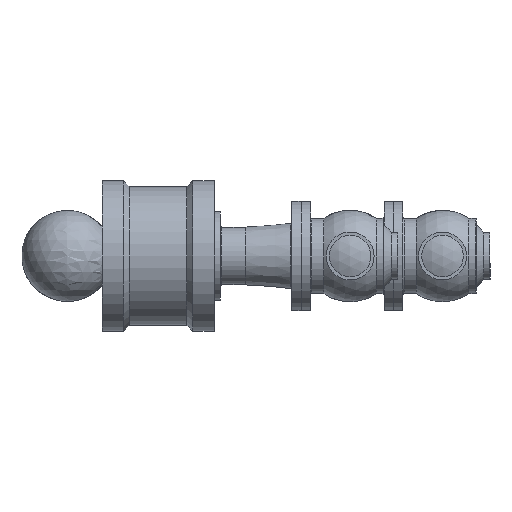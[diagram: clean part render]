
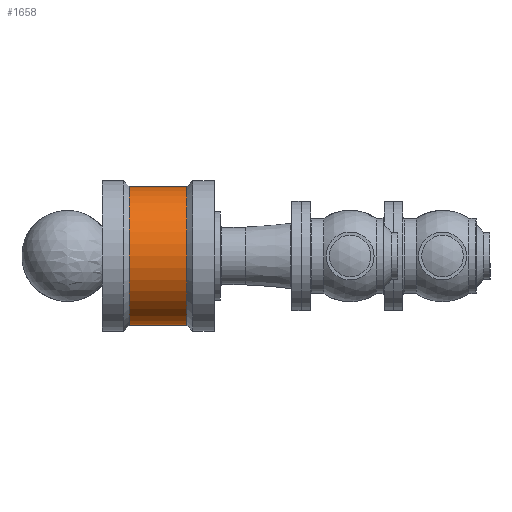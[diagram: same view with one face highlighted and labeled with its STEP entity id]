
A CAD part, left-side view. The second image highlights one B-rep face of the part: STEP entity #1658.
In plain terms, the highlighted cylindrical face has radius 110.5 mm (diameter 221 mm), a full revolution.
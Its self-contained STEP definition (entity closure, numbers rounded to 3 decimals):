
#251=FACE_OUTER_BOUND('',#350,.T.);
#350=EDGE_LOOP('',(#1212,#1213,#1214,#1215,#1216,#1217));
#462=LINE('',#2999,#505);
#505=VECTOR('',#2332,110.5);
#570=CIRCLE('',#1942,110.5);
#571=CIRCLE('',#1943,110.5);
#572=CIRCLE('',#1945,110.5);
#573=CIRCLE('',#1946,110.5);
#758=VERTEX_POINT('',#2989);
#759=VERTEX_POINT('',#2990);
#760=VERTEX_POINT('',#2995);
#761=VERTEX_POINT('',#2996);
#942=EDGE_CURVE('',#758,#759,#570,.T.);
#943=EDGE_CURVE('',#759,#758,#571,.T.);
#945=EDGE_CURVE('',#760,#761,#572,.T.);
#946=EDGE_CURVE('',#761,#760,#573,.T.);
#947=EDGE_CURVE('',#761,#759,#462,.T.);
#1212=ORIENTED_EDGE('',*,*,#945,.F.);
#1213=ORIENTED_EDGE('',*,*,#946,.F.);
#1214=ORIENTED_EDGE('',*,*,#947,.T.);
#1215=ORIENTED_EDGE('',*,*,#943,.T.);
#1216=ORIENTED_EDGE('',*,*,#942,.T.);
#1217=ORIENTED_EDGE('',*,*,#947,.F.);
#1610=CYLINDRICAL_SURFACE('',#1944,110.5);
#1658=ADVANCED_FACE('',(#251),#1610,.T.);
#1942=AXIS2_PLACEMENT_3D('',#2991,#2321,#2322);
#1943=AXIS2_PLACEMENT_3D('',#2992,#2323,#2324);
#1944=AXIS2_PLACEMENT_3D('',#2994,#2326,#2327);
#1945=AXIS2_PLACEMENT_3D('',#2997,#2328,#2329);
#1946=AXIS2_PLACEMENT_3D('',#2998,#2330,#2331);
#2321=DIRECTION('center_axis',(0.,1.,0.));
#2322=DIRECTION('ref_axis',(1.,0.,0.));
#2323=DIRECTION('center_axis',(0.,1.,0.));
#2324=DIRECTION('ref_axis',(1.,0.,0.));
#2326=DIRECTION('center_axis',(0.,1.,0.));
#2327=DIRECTION('ref_axis',(0.,0.,1.));
#2328=DIRECTION('center_axis',(0.,1.,0.));
#2329=DIRECTION('ref_axis',(1.,0.,0.));
#2330=DIRECTION('center_axis',(0.,1.,0.));
#2331=DIRECTION('ref_axis',(1.,0.,0.));
#2332=DIRECTION('',(0.,-1.,0.));
#2989=CARTESIAN_POINT('',(0.,43.,110.5));
#2990=CARTESIAN_POINT('',(0.,43.,-110.5));
#2991=CARTESIAN_POINT('Origin',(0.,43.,0.));
#2992=CARTESIAN_POINT('Origin',(0.,43.,0.));
#2994=CARTESIAN_POINT('Origin',(0.,89.,0.));
#2995=CARTESIAN_POINT('',(0.,135.,110.5));
#2996=CARTESIAN_POINT('',(0.,135.,-110.5));
#2997=CARTESIAN_POINT('Origin',(0.,135.,0.));
#2998=CARTESIAN_POINT('Origin',(0.,135.,0.));
#2999=CARTESIAN_POINT('',(0.,89.,-110.5));
